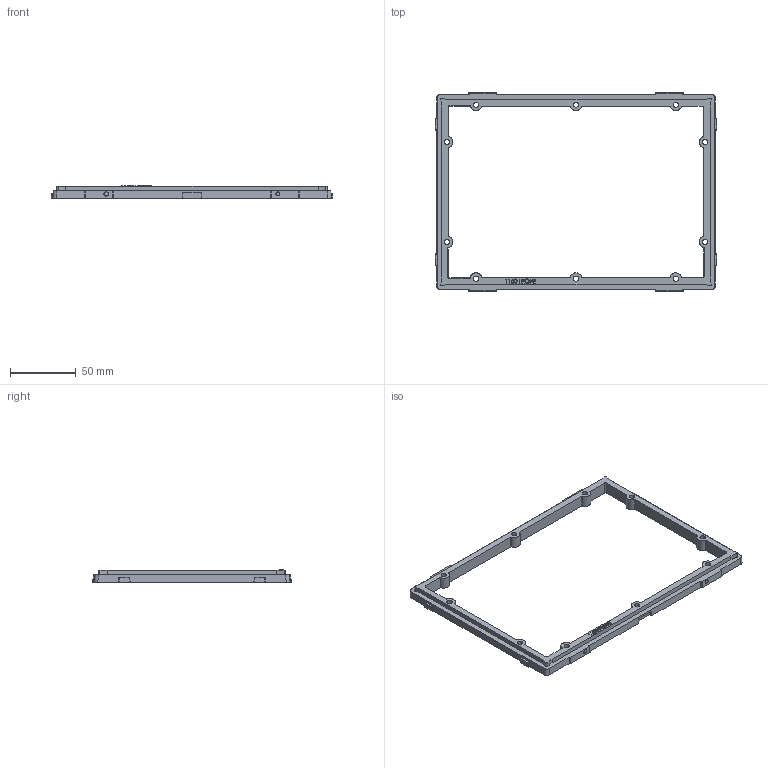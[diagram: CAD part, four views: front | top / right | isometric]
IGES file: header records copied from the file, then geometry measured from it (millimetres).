
Start section: SolidWorks IGES file using analytic representation for surfaces
Global section: file name: C:\Working\1150 Panel frame Mold9-29-14\1153-946-110.IGS; native system: SolidWorks 2014; preprocessor: SolidWorks 2014; author: mhakami; date: 160201.085807; units: inch
Bounding box: 214.88 x 151.23 x 9.65 mm (x, y, z)
Surface area: 27291.4 mm2 (no closed solid volume)
Topology: 0 solids, 0 shells, 305 faces, 4005 edges, 4005 vertices
Faces by surface type: bspline 175, revolution 130
